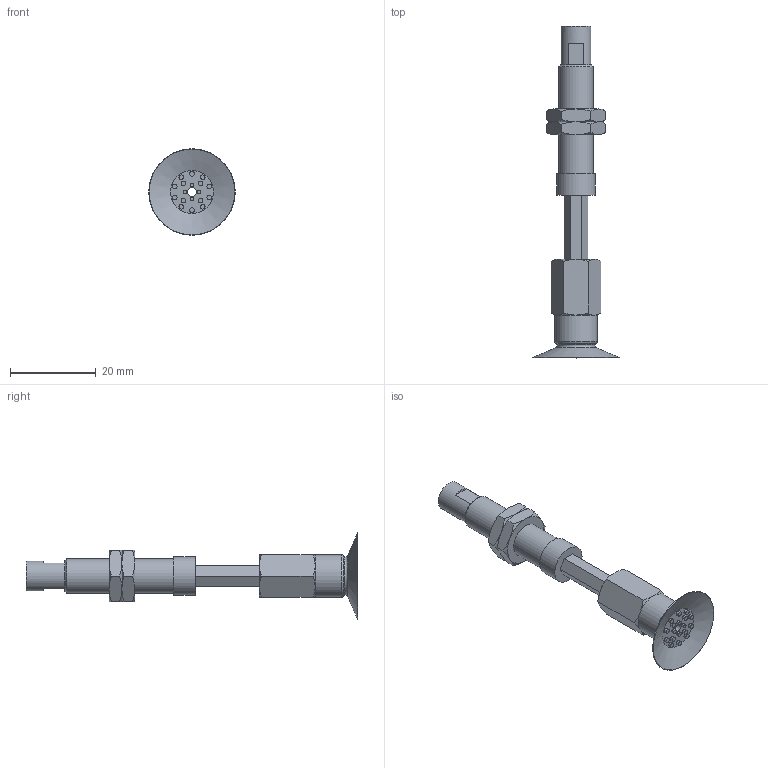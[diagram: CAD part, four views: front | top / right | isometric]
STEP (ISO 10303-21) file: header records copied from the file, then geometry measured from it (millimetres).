
FILE_DESCRIPTION(('STEP AP203'),'1');
FILE_NAME('.stp','2025-08-21T08:33:25',(' '),(' '),'Spatial InterOp 3D',' ',' ');
FILE_SCHEMA(('CONFIG_CONTROL_DESIGN'));
Length unit declared in the file: millimetre
Products named in the file (6): BNABPATH-20A-15-※; ADAPTER; NAPATH-10A-15--M; NAPATH-20A-15--F; Nut-10A-S; BPAG-20A-※
Assembly tree (6 placements, depth 2):
  BNABPATH-20A-15-※
    ADAPTER
    NAPATH-10A-15--M
    NAPATH-20A-15--F
    Nut-10A-S  x2
    BPAG-20A-※
Bounding box: 20.19 x 77.5 x 20.19 mm (x, y, z)
Volume: 4257.1 mm3; surface area: 5304.6 mm2
Topology: 6 solids, 6 shells, 159 faces, 319 edges, 197 vertices
Faces by surface type: plane 71, cone 46, cylinder 32, torus 10
Full cylindrical faces by diameter (mm): 0.9 x4, 1.1 x14, 2 x3, 4 x2, 4.134 x1, 6 x2, 7 x1, 7.188 x2, 8 x1, 9 x1, 10 x1
Entity records: 3700 total; most frequent: CARTESIAN_POINT 805, DIRECTION 558, ORIENTED_EDGE 426, AXIS2_PLACEMENT_3D 250, EDGE_LOOP 220, EDGE_CURVE 213, FACE_OUTER_BOUND 177, VERTEX_POINT 161
